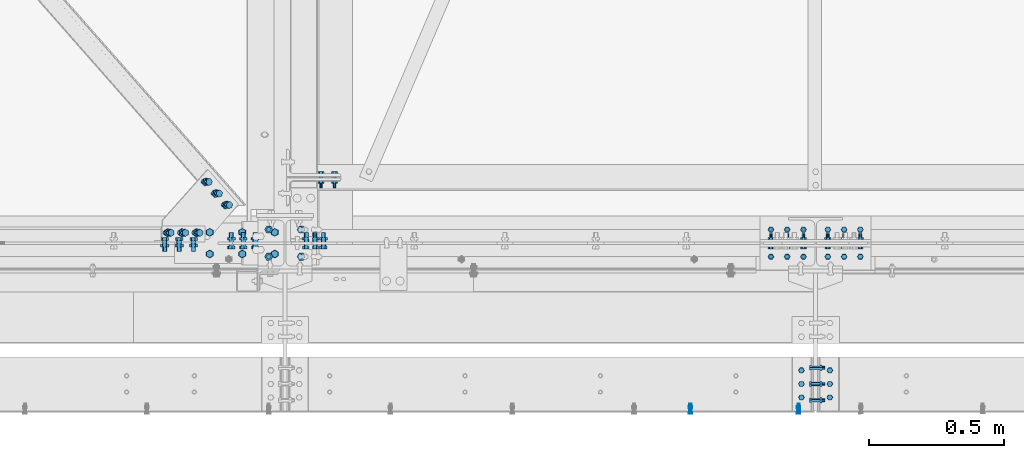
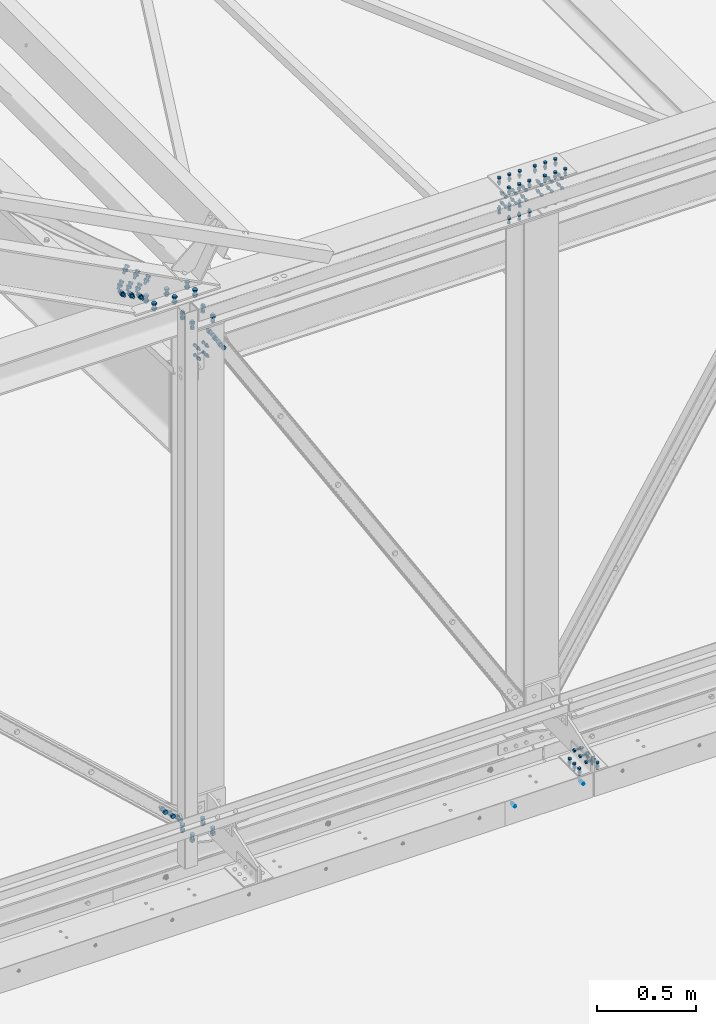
# One storey, part 160 of 362: 18 mechanical fasteners.
"""IFC2X3 building model written with IfcOpenShell, lengths in millimetres."""

import ifcopenshell
import ifcopenshell.guid

model = None  # the IFC model being written
_history = None  # IfcOwnerHistory: only IFC2X3 demands one
_inside = {}  # id of a spatial element -> (the spatial element, [elements in it])
_under = {}  # id of a project, library or spatial element -> (it, [spatial elements below it])
_declared = {}  # id of a project -> (the project, [libraries it declares])
_typed = {}  # id of a type object -> (the type object, [elements of that type])
_made_of = {}  # id of a material, layer set ... -> (it, [elements and type objects made of it])


def new_model(schema):
    """Start an empty IFC model of exactly this schema.

    Asked for "IFC4X3", IfcOpenShell would pick the latest addendum, in which some entities
    have other attributes; the version numbers below select the first issue.
    IFC2X3 requires an IfcOwnerHistory on every rooted entity: one is made here for all.
    """
    global model, _history
    if schema == "IFC4X3":
        model = ifcopenshell.file(schema_version=(4, 3, 0, 0))
    else:
        model = ifcopenshell.file(schema=schema)
    _inside.clear()
    _under.clear()
    _declared.clear()
    _typed.clear()
    _made_of.clear()
    _history = None
    if model.schema == "IFC2X3":
        org = make("IfcOrganization", Name="unknown")
        user = make(
            "IfcPersonAndOrganization",
            ThePerson=make("IfcPerson", FamilyName="unknown"),
            TheOrganization=org,
        )
        app = make(
            "IfcApplication",
            ApplicationDeveloper=org,
            Version="unknown",
            ApplicationFullName="unknown",
            ApplicationIdentifier="unknown",
        )
        _history = make(
            "IfcOwnerHistory",
            OwningUser=user,
            OwningApplication=app,
            ChangeAction="ADDED",
            CreationDate=0,
        )
    return model


def make(cls, **values):
    """One entity of the class cls with the attributes given. An attribute that is None is left unset."""
    return model.create_entity(
        cls, **{name: value for name, value in values.items() if value is not None}
    )


def rooted(cls, **values):
    """An entity with a GlobalId (a new one), such as an element, a storey or a relation."""
    return make(cls, GlobalId=ifcopenshell.guid.new(), OwnerHistory=_history, **values)


def si_unit(unit_type, name, prefix=None):
    """IfcSIUnit, for example si_unit("LENGTHUNIT", "METRE", prefix="MILLI")."""
    return make("IfcSIUnit", UnitType=unit_type, Prefix=prefix, Name=name)


def assignment(units):
    """IfcUnitAssignment: the units of a project."""
    return None if units is None else make("IfcUnitAssignment", Units=units)


def point(xyz):
    """IfcCartesianPoint."""
    return None if xyz is None else make("IfcCartesianPoint", Coordinates=xyz)


def direction(xyz):
    """IfcDirection."""
    return None if xyz is None else make("IfcDirection", DirectionRatios=xyz)


def frame(location, z_axis=None, x_axis=None):
    """IfcAxis2Placement3D, a coordinate frame: its origin and axes. An axis left out is left unset."""
    return make(
        "IfcAxis2Placement3D",
        Location=point(location),
        Axis=direction(z_axis),
        RefDirection=direction(x_axis),
    )


def frame_2d(location, x_axis=None):
    """IfcAxis2Placement2D, a coordinate frame in the plane: its origin and x axis."""
    return make(
        "IfcAxis2Placement2D", Location=point(location), RefDirection=direction(x_axis)
    )


def origin_with_axes():
    """The frame at (0, 0, 0) with the z axis (0, 0, 1) and the x axis (1, 0, 0) written out."""
    return frame((0.0, 0.0, 0.0), z_axis=(0.0, 0.0, 1.0), x_axis=(1.0, 0.0, 0.0))


def origin_2d_with_axis():
    """The frame at (0, 0) in the plane with the x axis (1, 0) written out."""
    return frame_2d((0.0, 0.0), x_axis=(1.0, 0.0))


def place(relative_to, where):
    """IfcLocalPlacement: puts the frame where relative to a parent placement (None: the world)."""
    return make(
        "IfcLocalPlacement", PlacementRelTo=relative_to, RelativePlacement=where
    )


def context(
    kind, dimensions, precision=None, world=None, true_north=None, identifier=None
):
    """IfcGeometricRepresentationContext, for example the 3D "Model" context."""
    return make(
        "IfcGeometricRepresentationContext",
        ContextIdentifier=identifier,
        ContextType=kind,
        CoordinateSpaceDimension=dimensions,
        Precision=precision,
        WorldCoordinateSystem=world,
        TrueNorth=true_north,
    )


def subcontext(parent, identifier, kind, view, scale=None):
    """IfcGeometricRepresentationSubContext, for example "Body" below "Model"."""
    return make(
        "IfcGeometricRepresentationSubContext",
        ContextIdentifier=identifier,
        ContextType=kind,
        ParentContext=parent,
        TargetScale=scale,
        TargetView=view,
    )


def project(units=None, contexts=None):
    """IfcProject with its units and contexts."""
    return rooted(
        "IfcProject",
        Name="project",
        RepresentationContexts=contexts,
        UnitsInContext=assignment(units),
    )


def spatial(cls, under=None, at=None, **own):
    """A site, building, storey or space (cls), placed at a placement, below another one or the project."""
    s = rooted(cls, ObjectPlacement=at, **own)
    if under is not None:
        _under.setdefault(under.id(), (under, []))[1].append(s)
    return s


def polyline(points):
    """IfcPolyline through the points."""
    return make("IfcPolyline", Points=[point(p) for p in points])


def profile(cls, at=None, kind="AREA", **sizes):
    """A parametric profile (cls). Its sizes go by their IFC names, for example OverallWidth=200.0."""
    return make(cls, ProfileType=kind, Position=at, **sizes)


def circle(**sizes):
    """IfcCircleProfileDef."""
    return profile("IfcCircleProfileDef", **sizes)


def outline(outer, holes=None, kind="AREA"):
    """IfcArbitraryClosedProfileDef: a profile drawn as a closed curve; with holes, ...WithVoids."""
    if holes is None:
        return make("IfcArbitraryClosedProfileDef", ProfileType=kind, OuterCurve=outer)
    return make(
        "IfcArbitraryProfileDefWithVoids",
        ProfileType=kind,
        OuterCurve=outer,
        InnerCurves=holes,
    )


def extrude(swept, where, along, depth):
    """IfcExtrudedAreaSolid: the profile swept, set in the frame where, extruded along a direction by depth."""
    return make(
        "IfcExtrudedAreaSolid",
        SweptArea=swept,
        Position=where,
        ExtrudedDirection=direction(along),
        Depth=depth,
    )


def shape(context_of_items, identifier, shape_type, items):
    """IfcShapeRepresentation: the items that make up one representation, for example the "Body"."""
    return make(
        "IfcShapeRepresentation",
        ContextOfItems=context_of_items,
        RepresentationIdentifier=identifier,
        RepresentationType=shape_type,
        Items=items,
    )


def source(mapping_origin, context_of_items, identifier, shape_type, items):
    """IfcRepresentationMap: a shape defined once, which mapped items show again and again."""
    return make(
        "IfcRepresentationMap",
        MappingOrigin=mapping_origin,
        MappedRepresentation=shape(context_of_items, identifier, shape_type, items),
    )


def transform(
    local_origin,
    x_axis=None,
    y_axis=None,
    z_axis=None,
    scale=None,
    scale2=None,
    scale3=None,
    uniform=True,
):
    """IfcCartesianTransformationOperator3D, or its non-uniform kind. x_axis, y_axis, z_axis: its Axis1, 2, 3."""
    if uniform:
        return make(
            "IfcCartesianTransformationOperator3D",
            Axis1=direction(x_axis),
            Axis2=direction(y_axis),
            LocalOrigin=point(local_origin),
            Scale=scale,
            Axis3=direction(z_axis),
        )
    return make(
        "IfcCartesianTransformationOperator3DnonUniform",
        Axis1=direction(x_axis),
        Axis2=direction(y_axis),
        LocalOrigin=point(local_origin),
        Scale=scale,
        Axis3=direction(z_axis),
        Scale2=scale2,
        Scale3=scale3,
    )


def mapped(mapping_source, mapping_target):
    """IfcMappedItem: shows the shape of a source again, moved by a transform."""
    return make(
        "IfcMappedItem", MappingSource=mapping_source, MappingTarget=mapping_target
    )


def material(Name=None, Category=None):
    """IfcMaterial."""
    return make("IfcMaterial", Name=Name, Category=Category)


def made_of(thing, what):
    """Note that an element or type object is made of a material, layer set ...; save() writes the relation."""
    if what is not None:
        _made_of.setdefault(what.id(), (what, []))[1].append(thing)
    return thing


def type_object(cls, material=None, **own):
    """A type object (cls), such as IfcWallType, which elements share."""
    return made_of(rooted(cls, **own), material)


def element(
    cls,
    number,
    at=None,
    inside=None,
    cuts=None,
    type_object=None,
    material=None,
    context=None,
    identifier="Body",
    shape_type=None,
    held_by="IfcProductDefinitionShape",
    body=None,
    shapes=None,
    **own,
):
    """One element of the class cls, such as IfcWall. Its Tag is "e" and its number.

    at: its placement. inside: the storey or other place that contains it. cuts: it is an
    opening in that element (IfcRelVoidsElement). A single representation is given by context,
    identifier, shape_type and body (its items); several are given by shapes. held_by: the class
    of the entity that holds the representations. save() writes the other relations.
    """
    e = rooted(cls, Tag="e%d" % number, ObjectPlacement=at, **own)
    if body is not None:
        shapes = [shape(context, identifier, shape_type, body)]
    if shapes is not None:
        e.Representation = make(held_by, Representations=shapes)
    if inside is not None:
        _inside.setdefault(inside.id(), (inside, []))[1].append(e)
    if cuts is not None:
        rooted(
            "IfcRelVoidsElement", RelatingBuildingElement=cuts, RelatedOpeningElement=e
        )
    if type_object is not None:
        _typed.setdefault(type_object.id(), (type_object, []))[1].append(e)
    return made_of(e, material)


def aggregate(whole, parts):
    """IfcRelAggregates: a whole, such as a stair, and the parts it consists of."""
    return rooted("IfcRelAggregates", RelatingObject=whole, RelatedObjects=parts)


def save(model, path):
    """Write the relations noted so far, then the file.

    IfcRelAggregates (storeys below a building ...), IfcRelContainedInSpatialStructure (elements
    in a storey), IfcRelDefinesByType, IfcRelAssociatesMaterial and IfcRelDeclares: one each for
    every whole, place, type object, material and project.
    """
    for whole, parts in _under.values():
        aggregate(whole, parts)
    for where, things in _inside.values():
        rooted(
            "IfcRelContainedInSpatialStructure",
            RelatedElements=things,
            RelatingStructure=where,
        )
    for kind, things in _typed.values():
        rooted("IfcRelDefinesByType", RelatedObjects=things, RelatingType=kind)
    for what, things in _made_of.values():
        rooted("IfcRelAssociatesMaterial", RelatedObjects=things, RelatingMaterial=what)
    for by, libraries in _declared.values():
        rooted("IfcRelDeclares", RelatingContext=by, RelatedDefinitions=libraries)
    model.write(path)


model = new_model("IFC2X3")

# Units and contexts
model_context = context("Model", 3, precision=1e-05, world=origin_with_axes())
body_context = subcontext(model_context, "Body", "Model", "MODEL_VIEW")
ifc_project = project(units=[si_unit("LENGTHUNIT", "METRE", prefix="MILLI"), si_unit("AREAUNIT", "SQUARE_METRE"), si_unit("VOLUMEUNIT", "CUBIC_METRE"), si_unit("MASSUNIT", "GRAM", prefix="KILO"), si_unit("TIMEUNIT", "SECOND"), si_unit("PLANEANGLEUNIT", "RADIAN"), si_unit("SOLIDANGLEUNIT", "STERADIAN"), si_unit("THERMODYNAMICTEMPERATUREUNIT", "DEGREE_CELSIUS"), si_unit("LUMINOUSINTENSITYUNIT", "LUMEN")], contexts=[model_context])

# Site, building, storey
site_placement = place(None, origin_with_axes())
site = spatial("IfcSite", under=ifc_project, at=site_placement, Name="Undefined", CompositionType="ELEMENT")
building_placement = place(site_placement, origin_with_axes())
building = spatial("IfcBuilding", under=site, at=building_placement, Name="Undefined", CompositionType="ELEMENT")
storey_placement = place(building_placement, origin_with_axes())
storey = spatial("IfcBuildingStorey", under=building, at=storey_placement, Name="Undefined", CompositionType="ELEMENT", Elevation=0.0)

# Mechanical fasteners
ifc_material_1 = material(Name="6.8")
mechanical_fastener_type = type_object("IfcMechanicalFastenerType", Name="Bolt assembly")
shared_shape_1 = source(origin_with_axes(), body_context, "Body", "SweptSolid", [
    extrude(circle(Radius=5.0, at=origin_2d_with_axis()), frame((0.0, 0.1, 0.0), z_axis=(0.0, 1.0, 0.0), x_axis=(1.0, 0.0, 0.0)), (0.0, 0.0, 1.0), 4.0),
    extrude(circle(Radius=5.0, at=origin_2d_with_axis()), frame((0.0, 3.9, 0.0), z_axis=(0.0, 1.0, 0.0), x_axis=(1.0, 0.0, 0.0)), (0.0, 0.0, 1.0), 11.0),
    extrude(outline(polyline([(7.50555349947, 0.0), (3.752776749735, 6.50000000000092), (-3.752776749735, 6.50000000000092), (-7.50555349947, 0.0), (-3.752776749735, -6.50000000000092), (3.752776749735, -6.50000000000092), (7.50555349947, 0.0)])), frame((0.0, -5.5, 0.0), z_axis=(0.0, 1.0, 0.0), x_axis=(1.0, 0.0, 0.0)), (0.0, 0.0, 1.0), 5.5),
    extrude(circle(Radius=4.0, at=origin_2d_with_axis()), frame((0.0, 0.0, 0.0), z_axis=(0.0, 1.0, 0.0), x_axis=(1.0, 0.0, 0.0)), (0.0, 0.0, 1.0), 30.0),
    extrude(outline(polyline([(7.50555349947, 0.0), (3.752776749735, 6.50000000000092), (-3.752776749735, 6.50000000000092), (-7.50555349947, 0.0), (-3.752776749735, -6.50000000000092), (3.752776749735, -6.50000000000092), (7.50555349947, 0.0)])), frame((0.0, 14.9002807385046, 0.0), z_axis=(0.0, 1.0, 0.0), x_axis=(1.0, 0.0, 0.0)), (0.0, 0.0, 1.0), 6.8),
])
mechanical_fastener_1_placement = place(storey_placement, frame((21247.4999880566, -624.0, 5185.00175461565), z_axis=(-1.0, 0.0, 0.0), x_axis=(0.0, 0.0, 1.0)))
element("IfcMechanicalFastener", 1, at=mechanical_fastener_1_placement, inside=storey, type_object=mechanical_fastener_type, material=ifc_material_1, Name="Bolt assembly", NominalDiameter=8.0, NominalLength=30.0, context=body_context, shape_type="MappedRepresentation", body=[
    mapped(shared_shape_1, transform((0.0, 0.0, -200.0))),
    mapped(shared_shape_1, transform((0.0, 0.0, 200.0))),
])
ifc_material_2 = material(Name="8.8-SB-ZINGUE")
shared_shape_2 = source(origin_with_axes(), body_context, "Body", "SweptSolid", [
    extrude(circle(Radius=7.0, at=origin_2d_with_axis()), frame((0.0, -7.5, 0.0), z_axis=(0.0, 1.0, 0.0), x_axis=(1.0, 0.0, 0.0)), (0.0, 0.0, 1.0), 15.0),
    extrude(circle(Radius=7.0, at=origin_2d_with_axis()), frame((0.0, -15.4, 0.0), z_axis=(0.0, 1.0, 0.0), x_axis=(1.0, 0.0, 0.0)), (0.0, 0.0, 1.0), 8.0),
    extrude(circle(Radius=7.0, at=origin_2d_with_axis()), frame((0.0, 7.39216762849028, 0.0), z_axis=(0.0, 1.0, 0.0), x_axis=(1.0, 0.0, 0.0)), (0.0, 0.0, 1.0), 8.1),
    extrude(outline(polyline([(10.39230484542, 0.0), (5.19615242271, 9.00000000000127), (-5.19615242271, 9.00000000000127), (-10.39230484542, 0.0), (-5.19615242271, -9.00000000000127), (5.19615242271, -9.00000000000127), (10.39230484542, 0.0)])), frame((0.0, -23.42, 0.0), z_axis=(0.0, 1.0, 0.0), x_axis=(1.0, 0.0, 0.0)), (0.0, 0.0, 1.0), 7.92),
    extrude(circle(Radius=6.0, at=origin_2d_with_axis()), frame((0.0, -15.5, 0.0), z_axis=(0.0, 1.0, 0.0), x_axis=(1.0, 0.0, 0.0)), (0.0, 0.0, 1.0), 50.0),
    extrude(outline(polyline([(11.5008173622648, 0.0), (5.7504086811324, 9.96000000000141), (-5.7504086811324, 9.96000000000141), (-11.5008173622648, 0.0), (-5.7504086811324, -9.96000000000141), (5.7504086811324, -9.96000000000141), (11.5008173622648, 0.0)])), frame((0.0, 15.4921676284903, 0.0), z_axis=(0.0, 1.0, 0.0), x_axis=(1.0, 0.0, 0.0)), (0.0, 0.0, 1.0), 7.92),
])
mechanical_fastener_2_placement = place(storey_placement, frame((21509.9999984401, -520.0, 5274.99824538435), z_axis=(0.0, -1.0, 0.0), x_axis=(0.0, 0.0, -1.0)))
element("IfcMechanicalFastener", 2, at=mechanical_fastener_2_placement, inside=storey, type_object=mechanical_fastener_type, material=ifc_material_2, Name="Bolt assembly", NominalDiameter=12.0, NominalLength=50.0, context=body_context, shape_type="MappedRepresentation", body=[
    mapped(shared_shape_2, transform((0.0, 0.0, -60.0))),
    mapped(shared_shape_2, transform((0.0, 0.0, 0.0))),
    mapped(shared_shape_2, transform((0.0, 0.0, 60.0))),
])
shared_shape_3 = source(origin_with_axes(), body_context, "Body", "SweptSolid", [
    extrude(circle(Radius=7.0, at=origin_2d_with_axis()), frame((0.0, -0.100011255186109, 0.0), z_axis=(0.0, 1.0, 0.0), x_axis=(1.0, 0.0, 0.0)), (0.0, 0.0, 1.0), 8.6),
    extrude(circle(Radius=7.0, at=origin_2d_with_axis()), frame((0.0, -7.9, 0.0), z_axis=(0.0, 1.0, 0.0), x_axis=(1.0, 0.0, 0.0)), (0.0, 0.0, 1.0), 8.0),
    extrude(outline(polyline([(10.39230484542, 0.0), (5.19615242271, 9.00000000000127), (-5.19615242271, 9.00000000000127), (-10.39230484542, 0.0), (-5.19615242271, -9.00000000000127), (5.19615242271, -9.00000000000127), (10.39230484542, 0.0)])), frame((0.0, -15.92, 0.0), z_axis=(0.0, 1.0, 0.0), x_axis=(1.0, 0.0, 0.0)), (0.0, 0.0, 1.0), 7.92),
    extrude(circle(Radius=6.0, at=origin_2d_with_axis()), frame((0.0, -8.0, 0.0), z_axis=(0.0, 1.0, 0.0), x_axis=(1.0, 0.0, 0.0)), (0.0, 0.0, 1.0), 40.0),
    extrude(outline(polyline([(11.5008173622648, 0.0), (5.7504086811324, 9.96000000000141), (-5.7504086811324, 9.96000000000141), (-11.5008173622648, 0.0), (-5.7504086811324, -9.96000000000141), (5.7504086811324, -9.96000000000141), (11.5008173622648, 0.0)])), frame((0.0, 8.49999994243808, 0.0), z_axis=(0.0, 1.0, 0.0), x_axis=(1.0, 0.0, 0.0)), (0.0, 0.0, 1.0), 7.92),
])
for number, where, z_axis, x_axis, name in (
    (3, (21562.4921660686, -520.0, 5229.99824532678), (0.0, -1.0, 0.0), (-1.0, 0.0, 0.0), "Bolt assembly"),
    (4, (21457.4999984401, -520.0, 5229.99824532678), (0.0, 1.0, 0.0), (1.0, 0.0, 0.0), "Bolt assembly"),
):
    element("IfcMechanicalFastener", number, at=place(storey_placement, frame(where, z_axis=z_axis, x_axis=x_axis)), inside=storey, type_object=mechanical_fastener_type, material=ifc_material_2, Name=name, NominalDiameter=12.0, NominalLength=40.0, context=body_context, shape_type="MappedRepresentation", body=[
        mapped(shared_shape_3, transform((0.0, 0.0, -50.0))),
        mapped(shared_shape_3, transform((0.0, 0.0, 0.0))),
        mapped(shared_shape_3, transform((0.0, 0.0, 50.0))),
    ])
ifc_material_3 = material(Name="#_SB-8.8-ZINGUE")
shared_shape_4 = source(origin_with_axes(), body_context, "Body", "SweptSolid", [
    extrude(circle(Radius=9.0, at=origin_2d_with_axis()), frame((0.0, -5.8999542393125, 0.0), z_axis=(0.0, 1.0, 0.0), x_axis=(1.0, 0.0, 0.0)), (0.0, 0.0, 1.0), 6.0),
    extrude(circle(Radius=9.0, at=origin_2d_with_axis()), frame((0.0, -0.100011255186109, 0.0), z_axis=(0.0, 1.0, 0.0), x_axis=(1.0, 0.0, 0.0)), (0.0, 0.0, 1.0), 6.1),
    extrude(outline(polyline([(13.85640646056, 0.0), (6.92820323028, 12.0000000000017), (-6.92820323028, 12.0000000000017), (-13.85640646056, 0.0), (-6.92820323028, -12.0000000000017), (6.92820323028, -12.0000000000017), (13.85640646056, 0.0)])), frame((0.0, -16.5599735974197, 0.0), z_axis=(0.0, 1.0, 0.0), x_axis=(1.0, 0.0, 0.0)), (0.0, 0.0, 1.0), 10.56),
    extrude(circle(Radius=8.0, at=origin_2d_with_axis()), frame((0.0, -5.9999542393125, 0.0), z_axis=(0.0, 1.0, 0.0), x_axis=(1.0, 0.0, 0.0)), (0.0, 0.0, 1.0), 40.0),
    extrude(outline(polyline([(15.3344231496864, 0.0), (7.6672115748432, 13.2800000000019), (-7.6672115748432, 13.2800000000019), (-15.3344231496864, 0.0), (-7.6672115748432, -13.2800000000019), (7.6672115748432, -13.2800000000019), (15.3344231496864, 0.0)])), frame((0.0, 6.0, 0.0), z_axis=(0.0, 1.0, 0.0), x_axis=(1.0, 0.0, 0.0)), (0.0, 0.0, 1.0), 10.56),
])
mechanical_fastener_3_placement = place(storey_placement, frame((19337.2217871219, 140.990496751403, 8588.65583698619), z_axis=(-0.628485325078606, -0.704921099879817, 0.32877414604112), x_axis=(-0.624617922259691, 0.70928572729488, 0.326750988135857)))
element("IfcMechanicalFastener", 5, at=mechanical_fastener_3_placement, inside=storey, type_object=mechanical_fastener_type, material=ifc_material_3, Name="Bolt assembly", NominalDiameter=16.0, NominalLength=40.0, context=body_context, shape_type="MappedRepresentation", body=[
    mapped(shared_shape_4, transform((0.0, 0.0, 0.0))),
    mapped(shared_shape_4, transform((60.0, 0.0, 0.0))),
    mapped(shared_shape_4, transform((120.0, 0.0, 0.0))),
])
shared_shape_5 = source(origin_with_axes(), body_context, "Body", "SweptSolid", [
    extrude(circle(Radius=9.0, at=origin_2d_with_axis()), frame((0.0, 0.1, 0.0), z_axis=(0.0, 1.0, 0.0), x_axis=(1.0, 0.0, 0.0)), (0.0, 0.0, 1.0), 6.0),
    extrude(circle(Radius=9.0, at=origin_2d_with_axis()), frame((0.0, 5.90002706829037, 0.0), z_axis=(0.0, 1.0, 0.0), x_axis=(1.0, 0.0, 0.0)), (0.0, 0.0, 1.0), 6.1),
    extrude(outline(polyline([(13.85640646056, 0.0), (6.92820323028, 12.0000000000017), (-6.92820323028, 12.0000000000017), (-13.85640646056, 0.0), (-6.92820323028, -12.0000000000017), (6.92820323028, -12.0000000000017), (13.85640646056, 0.0)])), frame((0.0, -10.5600019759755, 0.0), z_axis=(0.0, 1.0, 0.0), x_axis=(1.0, 0.0, 0.0)), (0.0, 0.0, 1.0), 10.56),
    extrude(circle(Radius=8.0, at=origin_2d_with_axis()), frame((0.0, 0.0, 0.0), z_axis=(0.0, 1.0, 0.0), x_axis=(1.0, 0.0, 0.0)), (0.0, 0.0, 1.0), 40.0),
    extrude(outline(polyline([(15.3344231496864, 0.0), (7.6672115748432, 13.2800000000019), (-7.6672115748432, 13.2800000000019), (-15.3344231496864, 0.0), (-7.6672115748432, -13.2800000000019), (7.6672115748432, -13.2800000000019), (15.3344231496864, 0.0)])), frame((0.0, 12.0000270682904, 0.0), z_axis=(0.0, 1.0, 0.0), x_axis=(1.0, 0.0, 0.0)), (0.0, 0.0, 1.0), 10.56),
])
mechanical_fastener_4_placement = place(storey_placement, frame((19177.8457638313, 38.4999973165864, 8672.02888061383), z_axis=(0.886081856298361, 3.500000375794e-08, -0.463528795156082), x_axis=(0.0, -1.0, 0.0)))
element("IfcMechanicalFastener", 6, at=mechanical_fastener_4_placement, inside=storey, type_object=mechanical_fastener_type, material=ifc_material_3, Name="Bolt assembly", NominalDiameter=16.0, NominalLength=40.0, context=body_context, shape_type="MappedRepresentation", body=[
    mapped(shared_shape_5, transform((0.0, 0.0, -60.0))),
    mapped(shared_shape_5, transform((0.0, 0.0, 0.0))),
    mapped(shared_shape_5, transform((0.0, 0.0, 60.0))),
])
shared_shape_6 = source(origin_with_axes(), body_context, "Body", "SweptSolid", [
    extrude(circle(Radius=9.0, at=origin_2d_with_axis()), frame((0.0, -10.9000000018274, 0.0), z_axis=(0.0, 1.0, 0.0), x_axis=(1.0, 0.0, 0.0)), (0.0, 0.0, 1.0), 6.0),
    extrude(circle(Radius=9.0, at=origin_2d_with_axis()), frame((0.0, 4.9000000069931, 0.0), z_axis=(0.0, 1.0, 0.0), x_axis=(1.0, 0.0, 0.0)), (0.0, 0.0, 1.0), 6.1),
    extrude(circle(Radius=9.0, at=origin_2d_with_axis()), frame((0.0, -3.99999923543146, 0.0), z_axis=(0.0, 1.0, 0.0), x_axis=(1.0, 0.0, 0.0)), (0.0, 0.0, 1.0), 8.0),
    extrude(outline(polyline([(13.85640646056, 0.0), (6.92820323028, 12.0000000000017), (-6.92820323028, 12.0000000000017), (-13.85640646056, 0.0), (-6.92820323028, -12.0000000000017), (6.92820323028, -12.0000000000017), (13.85640646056, 0.0)])), frame((0.0, -21.5600000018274, 0.0), z_axis=(0.0, 1.0, 0.0), x_axis=(1.0, 0.0, 0.0)), (0.0, 0.0, 1.0), 10.56),
    extrude(circle(Radius=8.0, at=origin_2d_with_axis()), frame((0.0, -11.0000000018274, 0.0), z_axis=(0.0, 1.0, 0.0), x_axis=(1.0, 0.0, 0.0)), (0.0, 0.0, 1.0), 50.0),
    extrude(outline(polyline([(15.3344231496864, 0.0), (7.6672115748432, 13.2800000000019), (-7.6672115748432, 13.2800000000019), (-15.3344231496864, 0.0), (-7.6672115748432, -13.2800000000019), (7.6672115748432, -13.2800000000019), (15.3344231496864, 0.0)])), frame((0.0, 11.0000000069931, 0.0), z_axis=(0.0, 1.0, 0.0), x_axis=(1.0, 0.0, 0.0)), (0.0, 0.0, 1.0), 10.56),
])
for number, where, z_axis, x_axis, name in (
    (7, (19628.8839272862, 0.0, 8232.41668309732), (0.850550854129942, 0.0, 0.525892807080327), (0.525892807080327, 0.0, -0.850550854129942), "Bolt assembly"),
    (8, (19439.7671621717, 0.0, 5291.72934846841), (-0.67819106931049, 0.0, -0.734885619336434), (-0.734885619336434, 0.0, 0.67819106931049), "Bolt assembly"),
):
    element("IfcMechanicalFastener", number, at=place(storey_placement, frame(where, z_axis=z_axis, x_axis=x_axis)), inside=storey, type_object=mechanical_fastener_type, material=ifc_material_2, Name=name, NominalDiameter=16.0, NominalLength=50.0, context=body_context, shape_type="MappedRepresentation", body=[
        mapped(shared_shape_6, transform((0.0, 0.0, 0.0))),
        mapped(shared_shape_6, transform((60.0, 0.0, 0.0))),
        mapped(shared_shape_6, transform((120.0, 0.0, 0.0))),
    ])
shared_shape_7 = source(origin_with_axes(), body_context, "Body", "SweptSolid", [
    extrude(circle(Radius=9.0, at=origin_2d_with_axis()), frame((0.0, -3.19995229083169, 0.0), z_axis=(0.0, 1.0, 0.0), x_axis=(1.0, 0.0, 0.0)), (0.0, 0.0, 1.0), 6.3),
    extrude(circle(Radius=9.0, at=origin_2d_with_axis()), frame((0.0, -9.39989811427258, 0.0), z_axis=(0.0, 1.0, 0.0), x_axis=(1.0, 0.0, 0.0)), (0.0, 0.0, 1.0), 6.0),
    extrude(outline(polyline([(13.85640646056, 0.0), (6.92820323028, 12.0000000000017), (-6.92820323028, 12.0000000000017), (-13.85640646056, 0.0), (-6.92820323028, -12.0000000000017), (6.92820323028, -12.0000000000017), (13.85640646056, 0.0)])), frame((0.0, -20.0598981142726, 0.0), z_axis=(0.0, 1.0, 0.0), x_axis=(1.0, 0.0, 0.0)), (0.0, 0.0, 1.0), 10.56),
    extrude(circle(Radius=8.0, at=origin_2d_with_axis()), frame((0.0, -9.49989811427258, 0.0), z_axis=(0.0, 1.0, 0.0), x_axis=(1.0, 0.0, 0.0)), (0.0, 0.0, 1.0), 40.0),
    extrude(outline(polyline([(15.3344231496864, 0.0), (7.6672115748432, 13.2800000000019), (-7.6672115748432, 13.2800000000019), (-15.3344231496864, 0.0), (-7.6672115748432, -13.2800000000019), (7.6672115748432, -13.2800000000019), (15.3344231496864, 0.0)])), frame((0.0, 3.10004751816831, 0.0), z_axis=(0.0, 1.0, 0.0), x_axis=(1.0, 0.0, 0.0)), (0.0, 0.0, 1.0), 10.56),
])
mechanical_fastener_5_placement = place(storey_placement, frame((19158.8410681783, 9.65076477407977e-05, 8635.69949498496), z_axis=(0.886081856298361, 3.500000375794e-08, -0.463528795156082), x_axis=(0.463528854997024, 6.99999093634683e-09, 0.886081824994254)))
element("IfcMechanicalFastener", 9, at=mechanical_fastener_5_placement, inside=storey, type_object=mechanical_fastener_type, material=ifc_material_3, Name="Bolt assembly", NominalDiameter=16.0, NominalLength=40.0, context=body_context, shape_type="MappedRepresentation", body=[
    mapped(shared_shape_7, transform((0.0, 0.0, -60.0))),
    mapped(shared_shape_7, transform((0.0, 0.0, 0.0))),
    mapped(shared_shape_7, transform((0.0, 0.0, 60.0))),
])
shared_shape_8 = source(origin_with_axes(), body_context, "Body", "SweptSolid", [
    extrude(circle(Radius=9.0, at=origin_2d_with_axis()), frame((0.0, -0.0949441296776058, 0.0), z_axis=(0.0, 1.0, 0.0), x_axis=(1.0, 0.0, 0.0)), (0.0, 0.0, 1.0), 10.1),
    extrude(circle(Radius=9.0, at=origin_2d_with_axis()), frame((0.0, -9.9, 0.0), z_axis=(0.0, 1.0, 0.0), x_axis=(1.0, 0.0, 0.0)), (0.0, 0.0, 1.0), 10.0),
    extrude(outline(polyline([(13.85640646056, 0.0), (6.92820323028, 12.0000000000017), (-6.92820323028, 12.0000000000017), (-13.85640646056, 0.0), (-6.92820323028, -12.0000000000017), (6.92820323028, -12.0000000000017), (13.85640646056, 0.0)])), frame((0.0, -20.5600000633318, 0.0), z_axis=(0.0, 1.0, 0.0), x_axis=(1.0, 0.0, 0.0)), (0.0, 0.0, 1.0), 10.56),
    extrude(circle(Radius=8.0, at=origin_2d_with_axis()), frame((0.0, -10.0000010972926, 0.0), z_axis=(0.0, 1.0, 0.0), x_axis=(1.0, 0.0, 0.0)), (0.0, 0.0, 1.0), 40.0),
    extrude(outline(polyline([(15.3344231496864, 0.0), (7.6672115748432, 13.2800000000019), (-7.6672115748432, 13.2800000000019), (-15.3344231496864, 0.0), (-7.6672115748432, -13.2800000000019), (7.6672115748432, -13.2800000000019), (15.3344231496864, 0.0)])), frame((0.0, 10.0050558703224, 0.0), z_axis=(0.0, 1.0, 0.0), x_axis=(1.0, 0.0, 0.0)), (0.0, 0.0, 1.0), 10.56),
])
mechanical_fastener_6_placement = place(storey_placement, frame((19392.0, -40.0003156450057, 8549.99999999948), z_axis=(-1.0, 0.0, 0.0), x_axis=(0.0, 1.0, 0.0)))
element("IfcMechanicalFastener", 10, at=mechanical_fastener_6_placement, inside=storey, type_object=mechanical_fastener_type, material=ifc_material_2, Name="Bolt assembly", NominalDiameter=16.0, NominalLength=40.0, context=body_context, shape_type="MappedRepresentation", body=[
    mapped(shared_shape_8, transform((0.0, 0.0, -120.0))),
    mapped(shared_shape_8, transform((80.0, 0.0, -120.0))),
    mapped(shared_shape_8, transform((0.0, 0.0, 0.0))),
    mapped(shared_shape_8, transform((80.0, 0.0, 0.0))),
    mapped(shared_shape_8, transform((0.0, 0.0, 120.0))),
    mapped(shared_shape_8, transform((80.0, 0.0, 120.0))),
])
shared_shape_9 = source(origin_with_axes(), body_context, "Body", "SweptSolid", [
    extrude(circle(Radius=7.0, at=origin_2d_with_axis()), frame((0.0, -2.64402363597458, 0.0), z_axis=(0.0, 1.0, 0.0), x_axis=(1.0, 0.0, 0.0)), (0.0, 0.0, 1.0), 5.3),
    extrude(circle(Radius=7.0, at=origin_2d_with_axis()), frame((0.0, 2.90038411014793, 0.0), z_axis=(0.0, 1.0, 0.0), x_axis=(1.0, 0.0, 0.0)), (0.0, 0.0, 1.0), 10.1),
    extrude(circle(Radius=7.0, at=origin_2d_with_axis()), frame((0.0, -12.9004311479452, 0.0), z_axis=(0.0, 1.0, 0.0), x_axis=(1.0, 0.0, 0.0)), (0.0, 0.0, 1.0), 10.0),
    extrude(outline(polyline([(10.39230484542, 0.0), (5.19615242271, 9.00000000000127), (-5.19615242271, 9.00000000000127), (-10.39230484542, 0.0), (-5.19615242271, -9.00000000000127), (5.19615242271, -9.00000000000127), (10.39230484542, 0.0)])), frame((0.0, -20.9204311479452, 0.0), z_axis=(0.0, 1.0, 0.0), x_axis=(1.0, 0.0, 0.0)), (0.0, 0.0, 1.0), 7.92),
    extrude(circle(Radius=6.0, at=origin_2d_with_axis()), frame((0.0, -13.0004311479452, 0.0), z_axis=(0.0, 1.0, 0.0), x_axis=(1.0, 0.0, 0.0)), (0.0, 0.0, 1.0), 50.0),
    extrude(outline(polyline([(11.5008173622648, 0.0), (5.7504086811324, 9.96000000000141), (-5.7504086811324, 9.96000000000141), (-11.5008173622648, 0.0), (-5.7504086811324, -9.96000000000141), (5.7504086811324, -9.96000000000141), (11.5008173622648, 0.0)])), frame((0.0, 13.0004311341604, 0.0), z_axis=(0.0, 1.0, 0.0), x_axis=(1.0, 0.0, 0.0)), (0.0, 0.0, 1.0), 7.92),
])
mechanical_fastener_7_placement = place(storey_placement, frame((19733.0, 242.179024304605, 7952.34495603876), z_axis=(7.58071938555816e-11, 0.0314107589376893, 0.999506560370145), x_axis=(-1.0, 0.0, 0.0)))
element("IfcMechanicalFastener", 11, at=mechanical_fastener_7_placement, inside=storey, type_object=mechanical_fastener_type, material=ifc_material_2, Name="Bolt assembly", NominalDiameter=12.0, NominalLength=50.0, context=body_context, shape_type="MappedRepresentation", body=[
    mapped(shared_shape_9, transform((0.0, 0.0, -30.0))),
    mapped(shared_shape_9, transform((49.9999999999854, 1.98269844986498e-10, -29.9999999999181))),
    mapped(shared_shape_9, transform((0.0, 0.0, 30.0))),
    mapped(shared_shape_9, transform((50.0000000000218, 1.44154910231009e-10, 30.0000000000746))),
])
shared_shape_10 = source(origin_with_axes(), body_context, "Body", "SweptSolid", [
    extrude(circle(Radius=6.0, at=origin_2d_with_axis()), frame((0.0, -3.25000000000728, 0.0), z_axis=(0.0, 1.0, 0.0), x_axis=(1.0, 0.0, 0.0)), (0.0, 0.0, 1.0), 6.5),
    extrude(circle(Radius=6.0, at=origin_2d_with_axis()), frame((0.0, -13.4000000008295, 0.0), z_axis=(0.0, 1.0, 0.0), x_axis=(1.0, 0.0, 0.0)), (0.0, 0.0, 1.0), 10.0),
    extrude(circle(Radius=6.0, at=origin_2d_with_axis()), frame((0.0, 3.40000111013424, 0.0), z_axis=(0.0, 1.0, 0.0), x_axis=(1.0, 0.0, 0.0)), (0.0, 0.0, 1.0), 10.1),
    extrude(outline(polyline([(10.39230484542, 0.0), (5.19615242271, 9.00000000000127), (-5.19615242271, 9.00000000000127), (-10.39230484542, 0.0), (-5.19615242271, -9.00000000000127), (5.19615242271, -9.00000000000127), (10.39230484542, 0.0)])), frame((0.0, -21.42, 0.0), z_axis=(0.0, 1.0, 0.0), x_axis=(1.0, 0.0, 0.0)), (0.0, 0.0, 1.0), 7.92),
    extrude(circle(Radius=6.0, at=origin_2d_with_axis()), frame((0.0, -13.4999650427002, 0.0), z_axis=(0.0, 1.0, 0.0), x_axis=(1.0, 0.0, 0.0)), (0.0, 0.0, 1.0), 50.0),
    extrude(outline(polyline([(11.5008173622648, 0.0), (5.7504086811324, 9.96000000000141), (-5.7504086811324, 9.96000000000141), (-11.5008173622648, 0.0), (-5.7504086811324, -9.96000000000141), (5.7504086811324, -9.96000000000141), (11.5008173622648, 0.0)])), frame((0.0, 13.4999999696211, 0.0), z_axis=(0.0, 1.0, 0.0), x_axis=(1.0, 0.0, 0.0)), (0.0, 0.0, 1.0), 7.92),
])
for number, where, z_axis, x_axis, name in (
    (12, (21674.9998717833, 0.0, 8455.0), (0.0, 0.0, -1.0), (-1.0, 0.0, 0.0), "Bolt assembly"),
    (13, (21344.9998354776, 0.0, 8455.0), (0.0, 0.0, 1.0), (1.0, 0.0, 0.0), "Bolt assembly"),
):
    element("IfcMechanicalFastener", number, at=place(storey_placement, frame(where, z_axis=z_axis, x_axis=x_axis)), inside=storey, type_object=mechanical_fastener_type, material=ifc_material_2, Name=name, NominalDiameter=12.0, NominalLength=50.0, context=body_context, shape_type="MappedRepresentation", body=[
        mapped(shared_shape_10, transform((0.0, 0.0, 30.0))),
        mapped(shared_shape_10, transform((60.0, 0.0, 30.0))),
        mapped(shared_shape_10, transform((120.0, 0.0, 30.0))),
        mapped(shared_shape_10, transform((0.0, 0.0, -30.0))),
        mapped(shared_shape_10, transform((60.0, 0.0, -30.0))),
        mapped(shared_shape_10, transform((120.0, 0.0, -30.0))),
    ])
shared_shape_11 = source(origin_with_axes(), body_context, "Body", "SweptSolid", [
    extrude(circle(Radius=6.0, at=origin_2d_with_axis()), frame((0.0, -0.0941576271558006, 0.0), z_axis=(0.0, 1.0, 0.0), x_axis=(1.0, 0.0, 0.0)), (0.0, 0.0, 1.0), 10.1),
    extrude(circle(Radius=6.0, at=origin_2d_with_axis()), frame((0.0, -9.89987141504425, 0.0), z_axis=(0.0, 1.0, 0.0), x_axis=(1.0, 0.0, 0.0)), (0.0, 0.0, 1.0), 10.0),
    extrude(outline(polyline([(10.39230484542, 0.0), (5.19615242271, 9.00000000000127), (-5.19615242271, 9.00000000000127), (-10.39230484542, 0.0), (-5.19615242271, -9.00000000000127), (5.19615242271, -9.00000000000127), (10.39230484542, 0.0)])), frame((0.0, -17.9198714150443, 0.0), z_axis=(0.0, 1.0, 0.0), x_axis=(1.0, 0.0, 0.0)), (0.0, 0.0, 1.0), 7.92),
    extrude(circle(Radius=6.0, at=origin_2d_with_axis()), frame((0.0, -9.99987141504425, 0.0), z_axis=(0.0, 1.0, 0.0), x_axis=(1.0, 0.0, 0.0)), (0.0, 0.0, 1.0), 40.0),
    extrude(outline(polyline([(11.5008173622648, 0.0), (5.7504086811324, 9.96000000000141), (-5.7504086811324, 9.96000000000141), (-11.5008173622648, 0.0), (-5.7504086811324, -9.96000000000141), (5.7504086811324, -9.96000000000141), (11.5008173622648, 0.0)])), frame((0.0, 10.0058423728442, 0.0), z_axis=(0.0, 1.0, 0.0), x_axis=(1.0, 0.0, 0.0)), (0.0, 0.0, 1.0), 7.92),
])
mechanical_fastener_8_placement = place(storey_placement, frame((21344.997478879, 0.0, 8550.00068568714), z_axis=(0.0, 1.0, 0.0), x_axis=(1.0, 0.0, 0.0)))
element("IfcMechanicalFastener", 14, at=mechanical_fastener_8_placement, inside=storey, type_object=mechanical_fastener_type, material=ifc_material_2, Name="Bolt assembly", NominalDiameter=12.0, NominalLength=40.0, context=body_context, shape_type="MappedRepresentation", body=[
    mapped(shared_shape_11, transform((0.0, 0.0, -50.0))),
    mapped(shared_shape_11, transform((60.0, -2.18278728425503e-10, -50.0))),
    mapped(shared_shape_11, transform((120.0, -4.36557456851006e-10, -50.0))),
    mapped(shared_shape_11, transform((0.0, 0.0, 50.0))),
    mapped(shared_shape_11, transform((60.0, -2.18278728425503e-10, 50.0))),
    mapped(shared_shape_11, transform((120.0, -4.36557456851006e-10, 50.0))),
])
shared_shape_12 = source(origin_with_axes(), body_context, "Body", "SweptSolid", [
    extrude(circle(Radius=6.0, at=origin_2d_with_axis()), frame((0.0, -0.104470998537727, 0.0), z_axis=(0.0, 1.0, 0.0), x_axis=(1.0, 0.0, 0.0)), (0.0, 0.0, 1.0), 10.1),
    extrude(circle(Radius=6.0, at=origin_2d_with_axis()), frame((0.0, -9.89987141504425, 0.0), z_axis=(0.0, 1.0, 0.0), x_axis=(1.0, 0.0, 0.0)), (0.0, 0.0, 1.0), 10.0),
    extrude(outline(polyline([(10.39230484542, 0.0), (5.19615242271, 9.00000000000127), (-5.19615242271, 9.00000000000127), (-10.39230484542, 0.0), (-5.19615242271, -9.00000000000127), (5.19615242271, -9.00000000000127), (10.39230484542, 0.0)])), frame((0.0, -17.9198714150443, 0.0), z_axis=(0.0, 1.0, 0.0), x_axis=(1.0, 0.0, 0.0)), (0.0, 0.0, 1.0), 7.92),
    extrude(circle(Radius=6.0, at=origin_2d_with_axis()), frame((0.0, -9.99987141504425, 0.0), z_axis=(0.0, 1.0, 0.0), x_axis=(1.0, 0.0, 0.0)), (0.0, 0.0, 1.0), 40.0),
    extrude(outline(polyline([(11.5008173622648, 0.0), (5.7504086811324, 9.96000000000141), (-5.7504086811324, 9.96000000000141), (-11.5008173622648, 0.0), (-5.7504086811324, -9.96000000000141), (5.7504086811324, -9.96000000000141), (11.5008173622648, 0.0)])), frame((0.0, 9.99552900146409, 0.0), z_axis=(0.0, 1.0, 0.0), x_axis=(1.0, 0.0, 0.0)), (0.0, 0.0, 1.0), 7.92),
])
mechanical_fastener_9_placement = place(storey_placement, frame((21344.997478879, 0.0, 8359.99931431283), z_axis=(0.0, -1.0, 0.0), x_axis=(1.0, 0.0, 0.0)))
element("IfcMechanicalFastener", 15, at=mechanical_fastener_9_placement, inside=storey, type_object=mechanical_fastener_type, material=ifc_material_2, Name="Bolt assembly", NominalDiameter=12.0, NominalLength=40.0, context=body_context, shape_type="MappedRepresentation", body=[
    mapped(shared_shape_12, transform((0.0, 0.0, -50.0))),
    mapped(shared_shape_12, transform((60.0, -2.18278728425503e-10, -50.0))),
    mapped(shared_shape_12, transform((120.0, -4.36557456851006e-10, -50.0))),
    mapped(shared_shape_12, transform((0.0, 0.0, 50.0))),
    mapped(shared_shape_12, transform((60.0, -2.18278728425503e-10, 50.0))),
    mapped(shared_shape_12, transform((120.0, -4.36557456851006e-10, 50.0))),
])
shared_shape_13 = source(origin_with_axes(), body_context, "Body", "SweptSolid", [
    extrude(circle(Radius=6.0, at=origin_2d_with_axis()), frame((0.0, -0.0954636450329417, 0.0), z_axis=(0.0, 1.0, 0.0), x_axis=(1.0, 0.0, 0.0)), (0.0, 0.0, 1.0), 10.1),
    extrude(circle(Radius=6.0, at=origin_2d_with_axis()), frame((0.0, -9.9008370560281, 0.0), z_axis=(0.0, 1.0, 0.0), x_axis=(1.0, 0.0, 0.0)), (0.0, 0.0, 1.0), 10.0),
    extrude(outline(polyline([(10.39230484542, 0.0), (5.19615242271, 9.00000000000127), (-5.19615242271, 9.00000000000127), (-10.39230484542, 0.0), (-5.19615242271, -9.00000000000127), (5.19615242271, -9.00000000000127), (10.39230484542, 0.0)])), frame((0.0, -17.9208370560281, 0.0), z_axis=(0.0, 1.0, 0.0), x_axis=(1.0, 0.0, 0.0)), (0.0, 0.0, 1.0), 7.92),
    extrude(circle(Radius=6.0, at=origin_2d_with_axis()), frame((0.0, -10.0008370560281, 0.0), z_axis=(0.0, 1.0, 0.0), x_axis=(1.0, 0.0, 0.0)), (0.0, 0.0, 1.0), 40.0),
    extrude(outline(polyline([(11.5008173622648, 0.0), (5.7504086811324, 9.96000000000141), (-5.7504086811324, 9.96000000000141), (-11.5008173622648, 0.0), (-5.7504086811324, -9.96000000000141), (5.7504086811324, -9.96000000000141), (11.5008173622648, 0.0)])), frame((0.0, 10.0045363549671, 0.0), z_axis=(0.0, 1.0, 0.0), x_axis=(1.0, 0.0, 0.0)), (0.0, 0.0, 1.0), 7.92),
])
mechanical_fastener_10_placement = place(storey_placement, frame((21674.9998717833, 0.0, 8550.00068568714), z_axis=(0.0, -1.0, 0.0), x_axis=(-1.0, 0.0, 0.0)))
element("IfcMechanicalFastener", 16, at=mechanical_fastener_10_placement, inside=storey, type_object=mechanical_fastener_type, material=ifc_material_2, Name="Bolt assembly", NominalDiameter=12.0, NominalLength=40.0, context=body_context, shape_type="MappedRepresentation", body=[
    mapped(shared_shape_13, transform((0.0, 0.0, -50.0))),
    mapped(shared_shape_13, transform((60.0, -2.18278728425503e-10, -50.0))),
    mapped(shared_shape_13, transform((120.0, -4.36557456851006e-10, -50.0))),
    mapped(shared_shape_13, transform((0.0, 0.0, 50.0))),
    mapped(shared_shape_13, transform((60.0, -2.18278728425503e-10, 50.0))),
    mapped(shared_shape_13, transform((120.0, -4.36557456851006e-10, 50.0))),
])
shared_shape_14 = source(origin_with_axes(), body_context, "Body", "SweptSolid", [
    extrude(circle(Radius=9.0, at=origin_2d_with_axis()), frame((0.0, -0.104375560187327, 0.0), z_axis=(0.0, 1.0, 0.0), x_axis=(1.0, 0.0, 0.0)), (0.0, 0.0, 1.0), 10.1),
    extrude(circle(Radius=9.0, at=origin_2d_with_axis()), frame((0.0, -9.9, 0.0), z_axis=(0.0, 1.0, 0.0), x_axis=(1.0, 0.0, 0.0)), (0.0, 0.0, 1.0), 10.0),
    extrude(outline(polyline([(13.85640646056, 0.0), (6.92820323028, 12.0000000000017), (-6.92820323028, 12.0000000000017), (-13.85640646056, 0.0), (-6.92820323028, -12.0000000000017), (6.92820323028, -12.0000000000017), (13.85640646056, 0.0)])), frame((0.0, -20.5600000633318, 0.0), z_axis=(0.0, 1.0, 0.0), x_axis=(1.0, 0.0, 0.0)), (0.0, 0.0, 1.0), 10.56),
    extrude(circle(Radius=8.0, at=origin_2d_with_axis()), frame((0.0, -10.0000010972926, 0.0), z_axis=(0.0, 1.0, 0.0), x_axis=(1.0, 0.0, 0.0)), (0.0, 0.0, 1.0), 40.0),
    extrude(outline(polyline([(15.3344231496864, 0.0), (7.6672115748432, 13.2800000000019), (-7.6672115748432, 13.2800000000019), (-15.3344231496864, 0.0), (-7.6672115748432, -13.2800000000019), (7.6672115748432, -13.2800000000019), (15.3344231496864, 0.0)])), frame((0.0, 9.99562443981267, 0.0), z_axis=(0.0, 1.0, 0.0), x_axis=(1.0, 0.0, 0.0)), (0.0, 0.0, 1.0), 10.56),
])
mechanical_fastener_11_placement = place(storey_placement, frame((19610.0013904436, 0.0, 8359.99931429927), z_axis=(0.0, 1.0, 0.0), x_axis=(-1.0, 0.0, 0.0)))
element("IfcMechanicalFastener", 17, at=mechanical_fastener_11_placement, inside=storey, type_object=mechanical_fastener_type, material=ifc_material_2, Name="Bolt assembly", NominalDiameter=16.0, NominalLength=40.0, context=body_context, shape_type="MappedRepresentation", body=[
    mapped(shared_shape_14, transform((0.0, 0.0, -50.0))),
    mapped(shared_shape_14, transform((120.0, -4.36557456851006e-10, -50.0))),
    mapped(shared_shape_14, transform((0.0, 0.0, 50.0))),
    mapped(shared_shape_14, transform((120.0, -4.36557456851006e-10, 50.0))),
])
shared_shape_15 = source(origin_with_axes(), body_context, "Body", "SweptSolid", [
    extrude(circle(Radius=9.0, at=origin_2d_with_axis()), frame((0.0, -0.0998063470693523, 0.0), z_axis=(0.0, 1.0, 0.0), x_axis=(1.0, 0.0, 0.0)), (0.0, 0.0, 1.0), 10.1),
    extrude(circle(Radius=9.0, at=origin_2d_with_axis()), frame((0.0, -9.9, 0.0), z_axis=(0.0, 1.0, 0.0), x_axis=(1.0, 0.0, 0.0)), (0.0, 0.0, 1.0), 10.0),
    extrude(outline(polyline([(13.85640646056, 0.0), (6.92820323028, 12.0000000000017), (-6.92820323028, 12.0000000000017), (-13.85640646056, 0.0), (-6.92820323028, -12.0000000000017), (6.92820323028, -12.0000000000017), (13.85640646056, 0.0)])), frame((0.0, -20.5600000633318, 0.0), z_axis=(0.0, 1.0, 0.0), x_axis=(1.0, 0.0, 0.0)), (0.0, 0.0, 1.0), 10.56),
    extrude(circle(Radius=8.0, at=origin_2d_with_axis()), frame((0.0, -10.0000010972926, 0.0), z_axis=(0.0, 1.0, 0.0), x_axis=(1.0, 0.0, 0.0)), (0.0, 0.0, 1.0), 40.0),
    extrude(outline(polyline([(15.3344231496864, 0.0), (7.6672115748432, 13.2800000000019), (-7.6672115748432, 13.2800000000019), (-15.3344231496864, 0.0), (-7.6672115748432, -13.2800000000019), (7.6672115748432, -13.2800000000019), (15.3344231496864, 0.0)])), frame((0.0, 10.0001873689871, 0.0), z_axis=(0.0, 1.0, 0.0), x_axis=(1.0, 0.0, 0.0)), (0.0, 0.0, 1.0), 10.56),
])
mechanical_fastener_12_placement = place(storey_placement, frame((19610.0013899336, 0.0, 5190.00068570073), z_axis=(0.0, -1.0, 0.0), x_axis=(-1.0, 0.0, 0.0)))
element("IfcMechanicalFastener", 18, at=mechanical_fastener_12_placement, inside=storey, type_object=mechanical_fastener_type, material=ifc_material_2, Name="Bolt assembly", NominalDiameter=16.0, NominalLength=40.0, context=body_context, shape_type="MappedRepresentation", body=[
    mapped(shared_shape_15, transform((0.0, 0.0, -50.0))),
    mapped(shared_shape_15, transform((120.0, -4.36557456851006e-10, -50.0))),
    mapped(shared_shape_15, transform((0.0, 0.0, 50.0))),
    mapped(shared_shape_15, transform((120.0, -4.36557456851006e-10, 50.0))),
])

save(model, "model.ifc")
